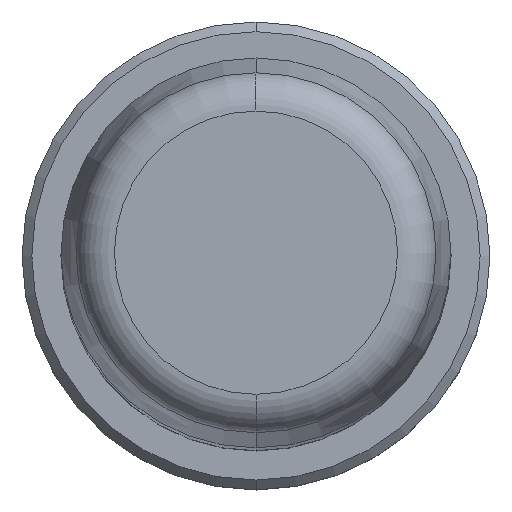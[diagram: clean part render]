
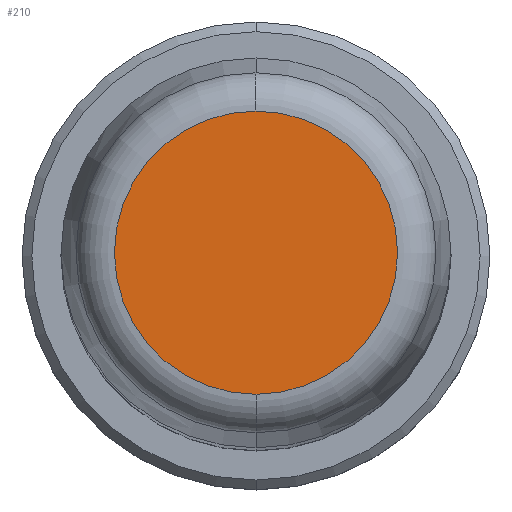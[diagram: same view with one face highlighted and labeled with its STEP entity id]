
A CAD part, top view. The second image highlights one B-rep face of the part: STEP entity #210.
In plain terms, the highlighted planar face has unit normal (0, 0, 1).
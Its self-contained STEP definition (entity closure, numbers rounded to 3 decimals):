
#1=CARTESIAN_POINT('',(0.,0.,100.));
#2=DIRECTION('',(0.,0.,-1.));
#3=DIRECTION('',(0.,-1.,0.));
#4=AXIS2_PLACEMENT_3D('',#1,#2,#3);
#6=CARTESIAN_POINT('',(0.,0.,100.));
#7=DIRECTION('',(0.,0.,-1.));
#8=DIRECTION('',(0.,1.,0.));
#9=AXIS2_PLACEMENT_3D('',#6,#7,#8);
#183=CARTESIAN_POINT('',(0.,-7.264,100.));
#184=CARTESIAN_POINT('',(0.,7.264,100.));
#185=VERTEX_POINT('',#183);
#186=VERTEX_POINT('',#184);
#199=CARTESIAN_POINT('',(0.,0.,100.));
#200=DIRECTION('',(0.,0.,1.));
#201=DIRECTION('',(0.,-1.,0.));
#202=AXIS2_PLACEMENT_3D('',#199,#200,#201);
#203=PLANE('',#202);
#205=ORIENTED_EDGE('',*,*,#204,.T.);
#207=ORIENTED_EDGE('',*,*,#206,.T.);
#208=EDGE_LOOP('',(#205,#207));
#209=FACE_OUTER_BOUND('',#208,.F.);
#210=ADVANCED_FACE('',(#209),#203,.T.);
#5=CIRCLE('',#4,7.264);
#10=CIRCLE('',#9,7.264);
#204=EDGE_CURVE('',#185,#186,#5,.T.);
#206=EDGE_CURVE('',#186,#185,#10,.T.);
